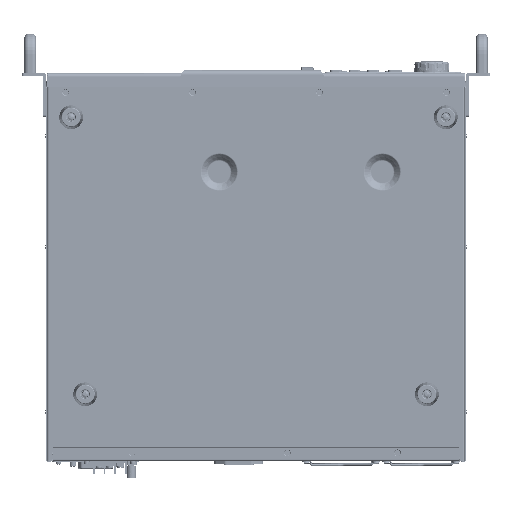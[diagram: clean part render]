
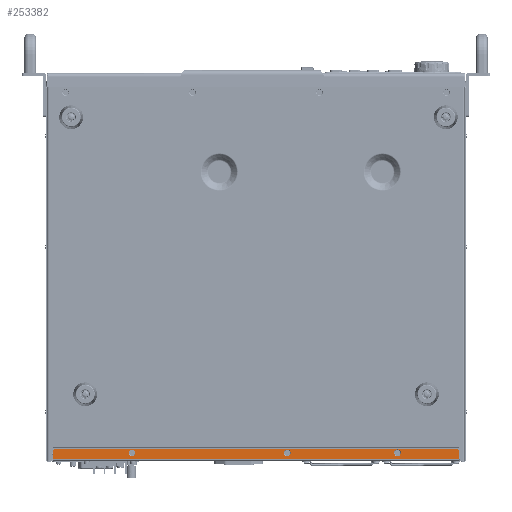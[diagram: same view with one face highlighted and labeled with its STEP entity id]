
A CAD part, front view. The second image highlights one B-rep face of the part: STEP entity #253382.
In plain terms, the highlighted planar face has unit normal (0, -1, 0).
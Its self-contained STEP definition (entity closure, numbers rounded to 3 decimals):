
#249382=DIRECTION('',(-1.,0.,0.));
#249383=VECTOR('',#249382,415.);
#249384=CARTESIAN_POINT('',(207.5,0.6,-398.6));
#249385=LINE('',#249384,#249383);
#249454=CARTESIAN_POINT('',(-127.,0.6,-392.));
#249455=DIRECTION('',(0.,-1.,0.));
#249456=DIRECTION('',(-1.,0.,0.));
#249457=AXIS2_PLACEMENT_3D('',#249454,#249455,#249456);
#249459=CARTESIAN_POINT('',(-127.,0.6,-392.));
#249460=DIRECTION('',(0.,-1.,0.));
#249461=DIRECTION('',(1.,0.,0.));
#249462=AXIS2_PLACEMENT_3D('',#249459,#249460,#249461);
#249464=CARTESIAN_POINT('',(145.,0.6,-392.));
#249465=DIRECTION('',(0.,-1.,0.));
#249466=DIRECTION('',(-1.,0.,0.));
#249467=AXIS2_PLACEMENT_3D('',#249464,#249465,#249466);
#249469=CARTESIAN_POINT('',(145.,0.6,-392.));
#249470=DIRECTION('',(0.,-1.,0.));
#249471=DIRECTION('',(1.,0.,0.));
#249472=AXIS2_PLACEMENT_3D('',#249469,#249470,#249471);
#249474=CARTESIAN_POINT('',(32.,0.6,-392.));
#249475=DIRECTION('',(0.,-1.,0.));
#249476=DIRECTION('',(-1.,0.,0.));
#249477=AXIS2_PLACEMENT_3D('',#249474,#249475,#249476);
#249479=CARTESIAN_POINT('',(32.,0.6,-392.));
#249480=DIRECTION('',(0.,-1.,0.));
#249481=DIRECTION('',(1.,0.,0.));
#249482=AXIS2_PLACEMENT_3D('',#249479,#249480,#249481);
#249484=CARTESIAN_POINT('',(205.5,0.6,-389.8));
#249485=DIRECTION('',(0.,-1.,0.));
#249486=DIRECTION('',(1.,0.,0.));
#249487=AXIS2_PLACEMENT_3D('',#249484,#249485,#249486);
#249489=DIRECTION('',(0.,0.,-1.));
#249490=VECTOR('',#249489,8.8);
#249491=CARTESIAN_POINT('',(207.5,0.6,-389.8));
#249492=LINE('',#249491,#249490);
#249493=DIRECTION('',(0.,0.,1.));
#249494=VECTOR('',#249493,8.8);
#249495=CARTESIAN_POINT('',(-207.5,0.6,-398.6));
#249496=LINE('',#249495,#249494);
#249497=CARTESIAN_POINT('',(-205.5,0.6,-389.8));
#249498=DIRECTION('',(0.,-1.,0.));
#249499=DIRECTION('',(0.,0.,1.));
#249500=AXIS2_PLACEMENT_3D('',#249497,#249498,#249499);
#249502=DIRECTION('',(1.,0.,0.));
#249503=VECTOR('',#249502,411.);
#249504=CARTESIAN_POINT('',(-205.5,0.6,-387.8));
#249505=LINE('',#249504,#249503);
#249890=CARTESIAN_POINT('',(207.5,0.6,-398.6));
#249891=CARTESIAN_POINT('',(-207.5,0.6,-398.6));
#249892=VERTEX_POINT('',#249890);
#249893=VERTEX_POINT('',#249891);
#250198=CARTESIAN_POINT('',(-130.45,0.6,-392.));
#250199=CARTESIAN_POINT('',(-123.55,0.6,-392.));
#250200=VERTEX_POINT('',#250198);
#250201=VERTEX_POINT('',#250199);
#250203=CARTESIAN_POINT('',(141.55,0.6,-392.));
#250205=VERTEX_POINT('',#250203);
#250207=CARTESIAN_POINT('',(148.45,0.6,-392.));
#250209=VERTEX_POINT('',#250207);
#250211=CARTESIAN_POINT('',(28.55,0.6,-392.));
#250213=VERTEX_POINT('',#250211);
#250215=CARTESIAN_POINT('',(35.45,0.6,-392.));
#250217=VERTEX_POINT('',#250215);
#250350=CARTESIAN_POINT('',(207.5,0.6,-389.8));
#250351=VERTEX_POINT('',#250350);
#250352=CARTESIAN_POINT('',(205.5,0.6,-387.8));
#250353=VERTEX_POINT('',#250352);
#250358=CARTESIAN_POINT('',(-205.5,0.6,-387.8));
#250359=VERTEX_POINT('',#250358);
#250360=CARTESIAN_POINT('',(-207.5,0.6,-389.8));
#250361=VERTEX_POINT('',#250360);
#253350=CARTESIAN_POINT('',(110.523,0.6,-398.8));
#253351=DIRECTION('',(0.,1.,0.));
#253352=DIRECTION('',(-1.,0.,0.));
#253353=AXIS2_PLACEMENT_3D('',#253350,#253351,#253352);
#253354=PLANE('',#253353);
#253355=ORIENTED_EDGE('',*,*,#253279,.F.);
#253356=ORIENTED_EDGE('',*,*,#253266,.T.);
#253357=ORIENTED_EDGE('',*,*,#253237,.T.);
#253359=ORIENTED_EDGE('',*,*,#253358,.T.);
#253361=ORIENTED_EDGE('',*,*,#253360,.F.);
#253363=ORIENTED_EDGE('',*,*,#253362,.T.);
#253364=EDGE_LOOP('',(#253355,#253356,#253357,#253359,#253361,#253363));
#253365=FACE_OUTER_BOUND('',#253364,.F.);
#253367=ORIENTED_EDGE('',*,*,#253366,.T.);
#253369=ORIENTED_EDGE('',*,*,#253368,.T.);
#253370=EDGE_LOOP('',(#253367,#253369));
#253371=FACE_BOUND('',#253370,.F.);
#253373=ORIENTED_EDGE('',*,*,#253372,.T.);
#253375=ORIENTED_EDGE('',*,*,#253374,.T.);
#253376=EDGE_LOOP('',(#253373,#253375));
#253377=FACE_BOUND('',#253376,.F.);
#253378=ORIENTED_EDGE('',*,*,#253330,.T.);
#253379=ORIENTED_EDGE('',*,*,#253344,.T.);
#253380=EDGE_LOOP('',(#253378,#253379));
#253381=FACE_BOUND('',#253380,.F.);
#253382=ADVANCED_FACE('',(#253365,#253371,#253377,#253381),#253354,.F.);
#249458=CIRCLE('',#249457,3.45);
#249463=CIRCLE('',#249462,3.45);
#249468=CIRCLE('',#249467,3.45);
#249473=CIRCLE('',#249472,3.45);
#249478=CIRCLE('',#249477,3.45);
#249483=CIRCLE('',#249482,3.45);
#249488=CIRCLE('',#249487,2.);
#249501=CIRCLE('',#249500,2.);
#253237=EDGE_CURVE('',#249892,#249893,#249385,.T.);
#253266=EDGE_CURVE('',#250351,#249892,#249492,.T.);
#253279=EDGE_CURVE('',#250351,#250353,#249488,.T.);
#253330=EDGE_CURVE('',#250200,#250201,#249458,.T.);
#253344=EDGE_CURVE('',#250201,#250200,#249463,.T.);
#253358=EDGE_CURVE('',#249893,#250361,#249496,.T.);
#253360=EDGE_CURVE('',#250359,#250361,#249501,.T.);
#253362=EDGE_CURVE('',#250359,#250353,#249505,.T.);
#253366=EDGE_CURVE('',#250205,#250209,#249468,.T.);
#253368=EDGE_CURVE('',#250209,#250205,#249473,.T.);
#253372=EDGE_CURVE('',#250213,#250217,#249478,.T.);
#253374=EDGE_CURVE('',#250217,#250213,#249483,.T.);
